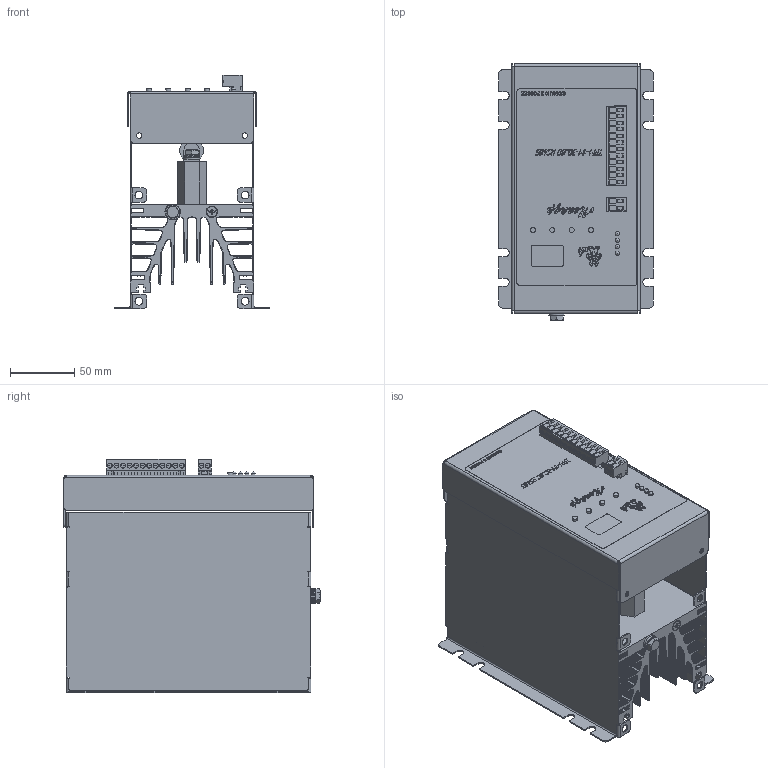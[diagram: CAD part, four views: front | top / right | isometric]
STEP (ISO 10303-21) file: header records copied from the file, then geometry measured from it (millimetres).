
FILE_DESCRIPTION(('STEP AP203'), '1');
FILE_NAME('ÒÐÌ-1Ì-30...80 RS485', '2025-03-24T13:21:33', (''), ('ÎÎÎ "Ìåàíäð"'), 'C3D Converter', 'C3D Toolkit', '');
FILE_SCHEMA(('CONFIG_CONTROL_DESIGN'));
Length unit declared in the file: millimetre
Products named in the file (2): Болт М6х14
Assembly tree (4 placements, depth 2):
  (unnamed)
    Болт М6х14  x4
Bounding box: 120 x 199.21 x 181.05 mm (x, y, z)
Volume: 613052.8 mm3; surface area: 492744.4 mm2
Topology: 6 solids, 22 shells, 7237 faces, 21001 edges, 13937 vertices
Faces by surface type: plane 4050, cylinder 2136, extrusion 981, cone 26, torus 20, bspline 20, sphere 4
Full cylindrical faces by diameter (mm): 3 x3, 3.1 x14, 3.3 x8, 3.9 x14, 4 x8, 4.2 x4, 6 x8, 6.1 x12, 6.4 x4, 8 x1, 8.8 x1, 8.9 x4, 12 x4, 14 x1, 18.5 x2
Entity records: 317284 total; most frequent: CARTESIAN_POINT 73312, ORIENTED_EDGE 41052, DIRECTION 35942, EDGE_CURVE 20526, VECTOR 15140, LINE 14159, VERTEX_POINT 13701, AXIS2_PLACEMENT_3D 10401
